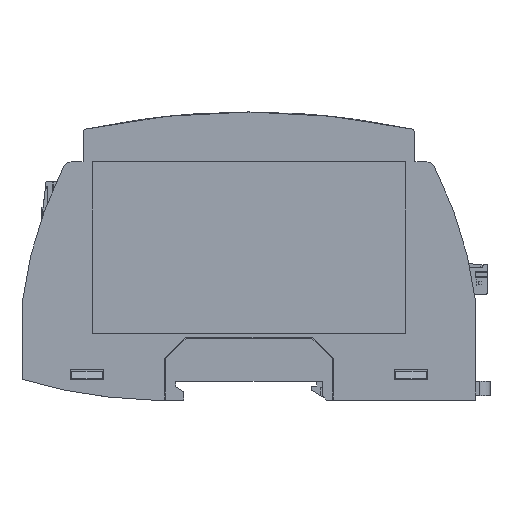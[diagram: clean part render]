
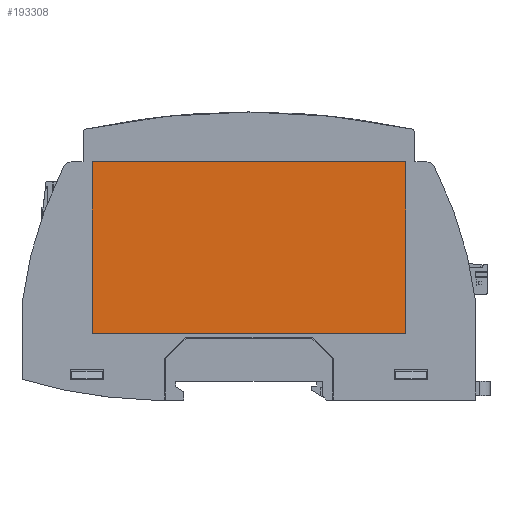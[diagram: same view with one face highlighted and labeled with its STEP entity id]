
A CAD part, left-side view. The second image highlights one B-rep face of the part: STEP entity #193308.
In plain terms, the highlighted planar face has unit normal (-1, 0, 0).
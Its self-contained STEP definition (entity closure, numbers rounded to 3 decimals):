
#7235 = CARTESIAN_POINT ( 'NONE',  ( -74.531, -33.061, 208.7 ) ) ;
#14577 = CARTESIAN_POINT ( 'NONE',  ( -74.531, 42.939, 208.7 ) ) ;
#21116 = ORIENTED_EDGE ( 'NONE', *, *, #53597, .T. ) ;
#33161 = CARTESIAN_POINT ( 'NONE',  ( -74.531, 42.939, 208.7 ) ) ;
#42302 = VECTOR ( 'NONE', #266935, 1000. ) ;
#53597 = EDGE_CURVE ( 'NONE', #350339, #331737, #163750, .T. ) ;
#53923 = FACE_OUTER_BOUND ( 'NONE', #137025, .T. ) ;
#58588 = ORIENTED_EDGE ( 'NONE', *, *, #115772, .T. ) ;
#62096 = CARTESIAN_POINT ( 'NONE',  ( -74.531, -33.061, 167.2 ) ) ;
#83772 = VERTEX_POINT ( 'NONE', #343014 ) ;
#84895 = AXIS2_PLACEMENT_3D ( 'NONE', #62096, #253058, #89572 ) ;
#89572 = DIRECTION ( 'NONE',  ( 0., 0., 1. ) ) ;
#105890 = CARTESIAN_POINT ( 'NONE',  ( -74.531, 42.939, 167.2 ) ) ;
#114745 = LINE ( 'NONE', #239495, #42302 ) ;
#115758 = PLANE ( 'NONE',  #84895 ) ;
#115772 = EDGE_CURVE ( 'NONE', #331737, #247345, #265077, .T. ) ;
#137025 = EDGE_LOOP ( 'NONE', ( #291998, #353625, #21116, #58588 ) ) ;
#163750 = LINE ( 'NONE', #14577, #309050 ) ;
#182851 = CARTESIAN_POINT ( 'NONE',  ( -74.531, -33.061, 167.2 ) ) ;
#193308 = ADVANCED_FACE ( 'NONE', ( #53923 ), #115758, .T. ) ;
#205380 = DIRECTION ( 'NONE',  ( 0., 1., 0. ) ) ;
#207295 = LINE ( 'NONE', #182851, #335393 ) ;
#235841 = CARTESIAN_POINT ( 'NONE',  ( -74.531, 42.939, 167.2 ) ) ;
#239495 = CARTESIAN_POINT ( 'NONE',  ( -74.531, 42.939, 167.2 ) ) ;
#247345 = VERTEX_POINT ( 'NONE', #235841 ) ;
#253058 = DIRECTION ( 'NONE',  ( -1., 0., 0. ) ) ;
#265077 = LINE ( 'NONE', #105890, #337696 ) ;
#265246 = DIRECTION ( 'NONE',  ( 0., 0., 1. ) ) ;
#266935 = DIRECTION ( 'NONE',  ( 0., -1., 0. ) ) ;
#268327 = EDGE_CURVE ( 'NONE', #83772, #350339, #207295, .T. ) ;
#269397 = DIRECTION ( 'NONE',  ( 0., 0., -1. ) ) ;
#291664 = EDGE_CURVE ( 'NONE', #247345, #83772, #114745, .T. ) ;
#291998 = ORIENTED_EDGE ( 'NONE', *, *, #291664, .T. ) ;
#309050 = VECTOR ( 'NONE', #205380, 1000. ) ;
#331737 = VERTEX_POINT ( 'NONE', #33161 ) ;
#335393 = VECTOR ( 'NONE', #265246, 1000. ) ;
#337696 = VECTOR ( 'NONE', #269397, 1000. ) ;
#343014 = CARTESIAN_POINT ( 'NONE',  ( -74.531, -33.061, 167.2 ) ) ;
#350339 = VERTEX_POINT ( 'NONE', #7235 ) ;
#353625 = ORIENTED_EDGE ( 'NONE', *, *, #268327, .T. ) ;
